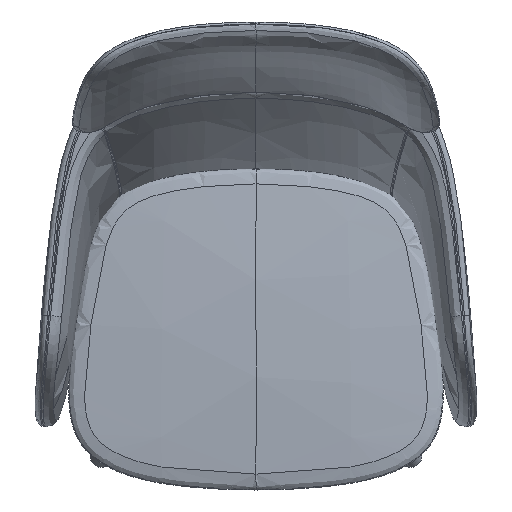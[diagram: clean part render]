
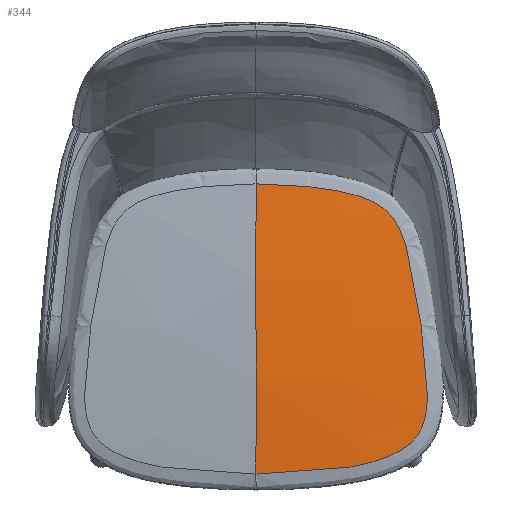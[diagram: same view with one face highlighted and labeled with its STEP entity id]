
A CAD part, top view. The second image highlights one B-rep face of the part: STEP entity #344.
In plain terms, the highlighted free-form (B-spline) face has degree [3, 3] with [9, 5] control points.
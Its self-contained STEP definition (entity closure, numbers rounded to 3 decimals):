
#126=B_SPLINE_SURFACE_WITH_KNOTS('',3,3,((#17307,#17308,#17309,#17310,#17311),
(#17312,#17313,#17314,#17315,#17316),(#17317,#17318,#17319,#17320,#17321),
(#17322,#17323,#17324,#17325,#17326),(#17327,#17328,#17329,#17330,#17331),
(#17332,#17333,#17334,#17335,#17336),(#17337,#17338,#17339,#17340,#17341),
(#17342,#17343,#17344,#17345,#17346),(#17347,#17348,#17349,#17350,#17351)),
 .UNSPECIFIED.,.F.,.F.,.F.,(4,1,1,1,1,1,4),(4,1,4),(0.,83.449,
166.899,250.348,333.797,417.247,500.696),
(0.,142.741,285.482),.UNSPECIFIED.);
#344=ADVANCED_FACE('',(#546),#126,.T.);
#546=FACE_OUTER_BOUND('',#748,.T.);
#748=EDGE_LOOP('',(#1597,#1598));
#1597=ORIENTED_EDGE('',*,*,#2053,.T.);
#1598=ORIENTED_EDGE('',*,*,#2052,.T.);
#2052=EDGE_CURVE('',#2758,#2757,#2495,.T.);
#2053=EDGE_CURVE('',#2757,#2758,#2496,.T.);
#2495=B_SPLINE_CURVE_WITH_KNOTS('',3,(#18349,#18350,#18351,#18352,#18353,
#18354,#18355,#18356,#18357),.UNSPECIFIED.,.F.,.F.,(4,1,1,1,1,1,4),(-474.18,
-417.247,-333.797,-250.348,-166.899,-83.449,
-27.123),.UNSPECIFIED.);
#2496=B_SPLINE_CURVE_WITH_KNOTS('',3,(#18358,#18359,#18360,#18361,#18362,
#18363,#18364,#18365,#18366,#18367,#18368,#18369,#18370,#18371,#18372,#18373,
#18374,#18375,#18376,#18377,#18378,#18379,#18380,#18381,#18382,#18383,#18384,
#18385,#18386,#18387,#18388,#18389,#18390,#18391,#18392,#18393,#18394,#18395),
 .UNSPECIFIED.,.F.,.F.,(4,1,1,1,1,1,1,1,1,1,1,1,1,1,1,1,1,1,1,1,1,1,1,1,
1,1,1,1,1,1,1,1,1,1,1,4),(0.,74.102,112.748,154.424,
192.525,214.792,232.095,245.22,256.268,
263.231,270.492,282.04,294.959,312.087,
324.989,345.938,375.178,394.6,433.998,
474.064,495.025,522.099,558.984,574.441,
583.826,599.863,611.407,622.834,635.318,
648.378,662.906,685.56,722.309,760.825,
798.113,834.844),.UNSPECIFIED.);
#2757=VERTEX_POINT('',#18235);
#2758=VERTEX_POINT('',#18236);
#17307=CARTESIAN_POINT('',(293.441,-301.219,409.758));
#17308=CARTESIAN_POINT('',(244.578,-302.117,412.027));
#17309=CARTESIAN_POINT('',(146.791,-303.464,415.43));
#17310=CARTESIAN_POINT('',(48.931,-303.914,416.565));
#17311=CARTESIAN_POINT('',(0.,-303.914,416.565));
#17312=CARTESIAN_POINT('',(293.711,-273.582,409.792));
#17313=CARTESIAN_POINT('',(244.804,-274.409,412.966));
#17314=CARTESIAN_POINT('',(146.927,-275.649,417.729));
#17315=CARTESIAN_POINT('',(48.977,-276.062,419.318));
#17316=CARTESIAN_POINT('',(0.,-276.062,419.317));
#17317=CARTESIAN_POINT('',(293.865,-218.31,409.399));
#17318=CARTESIAN_POINT('',(244.933,-218.924,413.883));
#17319=CARTESIAN_POINT('',(147.006,-219.846,420.61));
#17320=CARTESIAN_POINT('',(49.003,-220.153,422.853));
#17321=CARTESIAN_POINT('',(0.,-220.153,422.853));
#17322=CARTESIAN_POINT('',(292.931,-135.39,407.431));
#17323=CARTESIAN_POINT('',(244.156,-135.651,412.767));
#17324=CARTESIAN_POINT('',(146.541,-136.042,420.772));
#17325=CARTESIAN_POINT('',(48.848,-136.173,423.44));
#17326=CARTESIAN_POINT('',(0.,-136.173,423.44));
#17327=CARTESIAN_POINT('',(290.831,-52.536,404.084));
#17328=CARTESIAN_POINT('',(242.408,-52.43,409.567));
#17329=CARTESIAN_POINT('',(145.493,-52.272,417.794));
#17330=CARTESIAN_POINT('',(48.499,-52.219,420.537));
#17331=CARTESIAN_POINT('',(0.,-52.219,420.537));
#17332=CARTESIAN_POINT('',(287.567,30.218,399.359));
#17333=CARTESIAN_POINT('',(239.689,30.677,404.709));
#17334=CARTESIAN_POINT('',(143.864,31.367,412.736));
#17335=CARTESIAN_POINT('',(47.956,31.597,415.412));
#17336=CARTESIAN_POINT('',(0.,31.597,415.412));
#17337=CARTESIAN_POINT('',(283.142,112.812,393.26));
#17338=CARTESIAN_POINT('',(236.003,113.595,397.804));
#17339=CARTESIAN_POINT('',(141.653,114.77,404.62));
#17340=CARTESIAN_POINT('',(47.219,115.162,406.893));
#17341=CARTESIAN_POINT('',(0.,115.162,406.893));
#17342=CARTESIAN_POINT('',(279.422,167.712,388.284));
#17343=CARTESIAN_POINT('',(232.904,168.64,391.569));
#17344=CARTESIAN_POINT('',(139.795,170.031,396.498));
#17345=CARTESIAN_POINT('',(46.6,170.496,398.142));
#17346=CARTESIAN_POINT('',(0.,170.496,398.142));
#17347=CARTESIAN_POINT('',(277.369,195.13,385.568));
#17348=CARTESIAN_POINT('',(231.193,196.077,387.984));
#17349=CARTESIAN_POINT('',(138.769,197.5,391.611));
#17350=CARTESIAN_POINT('',(46.258,197.974,392.821));
#17351=CARTESIAN_POINT('',(0.,197.974,392.821));
#18235=CARTESIAN_POINT('',(0.,-276.727,418.944));
#18236=CARTESIAN_POINT('',(0.,171.726,397.613));
#18349=CARTESIAN_POINT('',(0.,171.726,397.613));
#18350=CARTESIAN_POINT('',(0.,152.904,400.845));
#18351=CARTESIAN_POINT('',(0.,106.311,407.796));
#18352=CARTESIAN_POINT('',(0.,31.597,415.412));
#18353=CARTESIAN_POINT('',(0.,-52.219,420.537));
#18354=CARTESIAN_POINT('',(0.,-136.173,423.441));
#18355=CARTESIAN_POINT('',(0.,-211.055,422.917));
#18356=CARTESIAN_POINT('',(0.,-257.889,420.384));
#18357=CARTESIAN_POINT('',(0.,-276.727,418.944));
#18358=CARTESIAN_POINT('',(0.,-276.727,418.944));
#18359=CARTESIAN_POINT('',(24.702,-276.734,418.942));
#18360=CARTESIAN_POINT('',(62.281,-275.434,418.746));
#18361=CARTESIAN_POINT('',(113.565,-270.917,417.979));
#18362=CARTESIAN_POINT('',(152.657,-265.314,417.096));
#18363=CARTESIAN_POINT('',(185.712,-257.06,416.062));
#18364=CARTESIAN_POINT('',(209.837,-247.593,415.075));
#18365=CARTESIAN_POINT('',(225.332,-239.279,414.308));
#18366=CARTESIAN_POINT('',(236.602,-231.254,413.657));
#18367=CARTESIAN_POINT('',(244.145,-224.096,413.159));
#18368=CARTESIAN_POINT('',(249.409,-217.515,412.769));
#18369=CARTESIAN_POINT('',(253.974,-210.23,412.395));
#18370=CARTESIAN_POINT('',(258.304,-200.554,411.975));
#18371=CARTESIAN_POINT('',(262.075,-187.191,411.492));
#18372=CARTESIAN_POINT('',(264.173,-173.007,411.057));
#18373=CARTESIAN_POINT('',(265.179,-156.044,410.591));
#18374=CARTESIAN_POINT('',(265.,-135.008,410.042));
#18375=CARTESIAN_POINT('',(263.236,-111.868,409.435));
#18376=CARTESIAN_POINT('',(260.014,-82.704,408.592));
#18377=CARTESIAN_POINT('',(255.737,-50.037,407.476));
#18378=CARTESIAN_POINT('',(250.667,-16.975,406.102));
#18379=CARTESIAN_POINT('',(245.782,11.95,404.7));
#18380=CARTESIAN_POINT('',(240.733,39.757,403.187));
#18381=CARTESIAN_POINT('',(235.112,65.602,401.593));
#18382=CARTESIAN_POINT('',(228.979,85.215,400.331));
#18383=CARTESIAN_POINT('',(224.098,97.915,399.513));
#18384=CARTESIAN_POINT('',(218.705,109.007,398.812));
#18385=CARTESIAN_POINT('',(211.38,119.766,398.19));
#18386=CARTESIAN_POINT('',(203.468,128.575,397.735));
#18387=CARTESIAN_POINT('',(193.965,136.463,397.399));
#18388=CARTESIAN_POINT('',(182.55,143.457,397.185));
#18389=CARTESIAN_POINT('',(167.24,150.318,397.086));
#18390=CARTESIAN_POINT('',(143.677,157.678,397.131));
#18391=CARTESIAN_POINT('',(111.593,163.886,397.338));
#18392=CARTESIAN_POINT('',(74.341,168.421,397.522));
#18393=CARTESIAN_POINT('',(36.918,171.155,397.596));
#18394=CARTESIAN_POINT('',(12.243,171.725,397.613));
#18395=CARTESIAN_POINT('',(0.,171.726,397.613));
